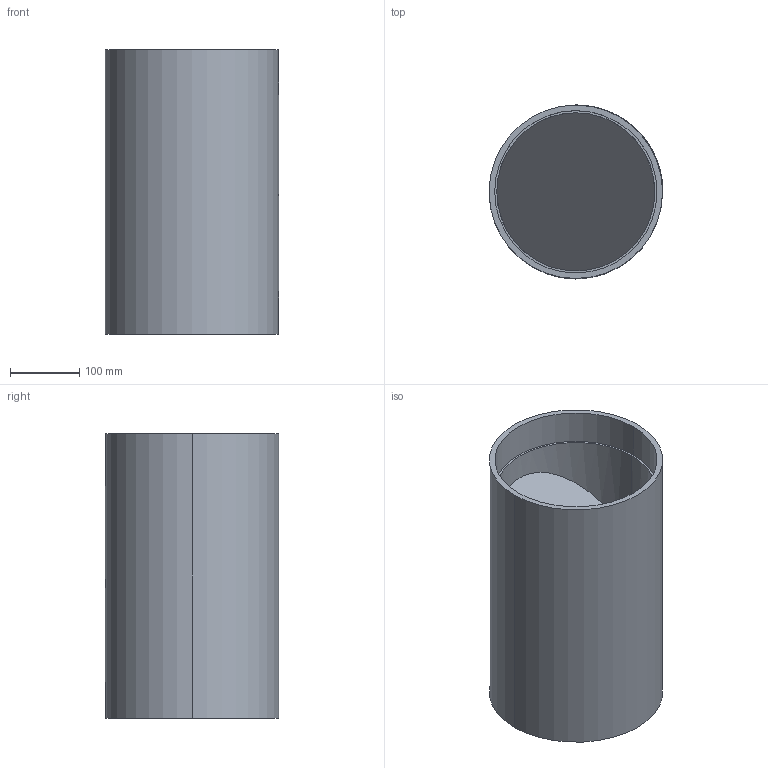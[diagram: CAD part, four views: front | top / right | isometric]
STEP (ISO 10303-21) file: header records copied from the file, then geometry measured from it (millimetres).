
FILE_DESCRIPTION (( 'STEP AP214' ), '1' );
FILE_NAME ('CF-IL-G5-S0250-NN-316-IDP.STEP', '2023-03-21T12:27:15', ( '' ), ( '' ), 'SwSTEP 2.0', 'SolidWorks 2022', '' );
FILE_SCHEMA (( 'AUTOMOTIVE_DESIGN' ));
Length unit declared in the file: millimetre
Products named in the file (3): CF-IL-G5-S0250-NN-316-IDP; CF-IL-G5-S0250-NN-316-IDP_CM-0100-B; Clamp- 250_CM-0250-B
Assembly tree (2 placements, depth 2):
  CF-IL-G5-S0250-NN-316-IDP
    CF-IL-G5-S0250-NN-316-IDP_CM-0100-B
    Clamp- 250_CM-0250-B
Bounding box: 250.5 x 250.5 x 410 mm (x, y, z)
Volume: 3590692.5 mm3; surface area: 821560.8 mm2
Topology: 6 solids, 6 shells, 1624 faces, 4772 edges, 3197 vertices
Faces by surface type: plane 677, bspline 670, cylinder 142, cone 135
Entity records: 74110 total; most frequent: CARTESIAN_POINT 22570, ORIENTED_EDGE 9544, EDGE_CURVE 4772, DIRECTION 4727, VERTEX_POINT 3197, B_SPLINE_CURVE_WITH_KNOTS 2274, VECTOR 2137, LINE 2137
